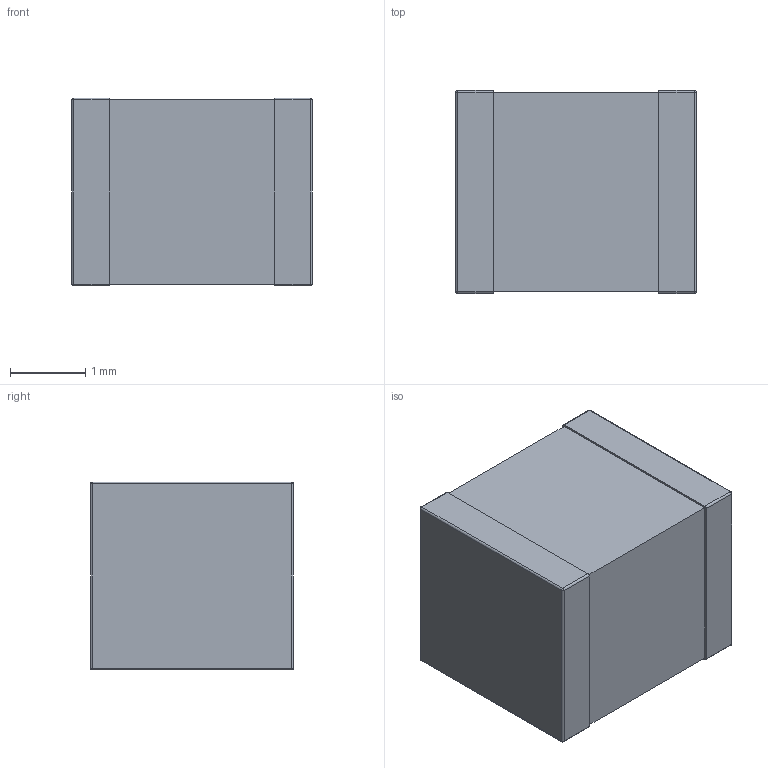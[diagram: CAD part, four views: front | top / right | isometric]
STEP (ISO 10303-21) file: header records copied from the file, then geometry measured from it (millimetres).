
FILE_DESCRIPTION (( 'STEP AP214' ), '1' );
FILE_NAME ('CC1210KKX5R5BB226.STEP', '2023-04-20T10:53:27', ( '' ), ( '' ), 'SwSTEP 2.0', 'SolidWorks 2021', '' );
FILE_SCHEMA (( 'AUTOMOTIVE_DESIGN' ));
Length unit declared in the file: millimetre
Products named in the file (1): CC1210KKX5R5BB226
Bounding box: 3.2 x 2.7 x 2.5 mm (x, y, z)
Volume: 21 mm3; surface area: 72.6 mm2
Topology: 3 solids, 3 shells, 42 faces, 92 edges, 48 vertices
Faces by surface type: plane 18, cylinder 16, sphere 8
Entity records: 1120 total; most frequent: DIRECTION 202, CARTESIAN_POINT 175, ORIENTED_EDGE 168, EDGE_CURVE 84, AXIS2_PLACEMENT_3D 75, VECTOR 52, LINE 52, VERTEX_POINT 48
